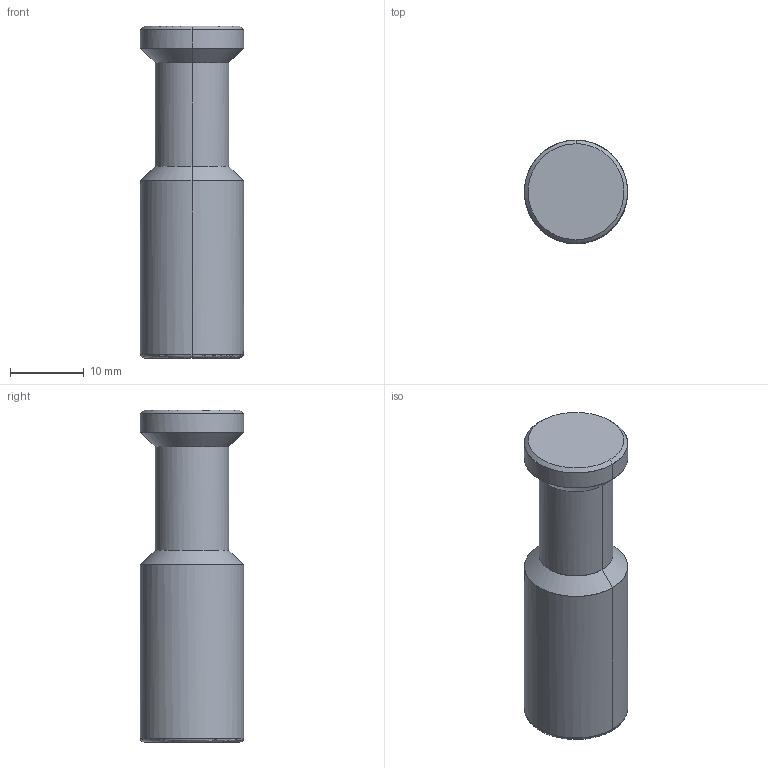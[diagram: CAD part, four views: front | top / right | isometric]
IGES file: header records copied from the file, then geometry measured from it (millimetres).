
Start section: --------------------------------------------------- ROBERT BOSCH GmbH, D-70442 Stuttgart Model-Name:      2123214000 Drawing-Name:    &dwg_name Format:          DIN &format Alle Rechte bei ROBERT BOSCH GmbH, auch fuer den Fall von Schutzrechtsanmeldungen. Jede Verfuegungs- befugnis, wie Kopier- und Weitergabe, bei uns. THIS DRAWING IS THE EXCLUSIVE PROPERTY OF ROBERT BOSCH GMBH. WITHOUT THEIR CONS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
Global section: file name: 2123214000.igs; native system: Pro/ENGINEER by Parametric Technology Corporation; preprocessor: 2011490; author: vol1hc; organization: Unknown; date: 20150526.105047; units: millimetre
Bounding box: 13.97 x 14 x 45 mm (x, y, z)
Surface area: 2761.7 mm2 (no closed solid volume)
Topology: 0 solids, 0 shells, 22 faces, 86 edges, 84 vertices
Faces by surface type: revolution 20, bspline 2
